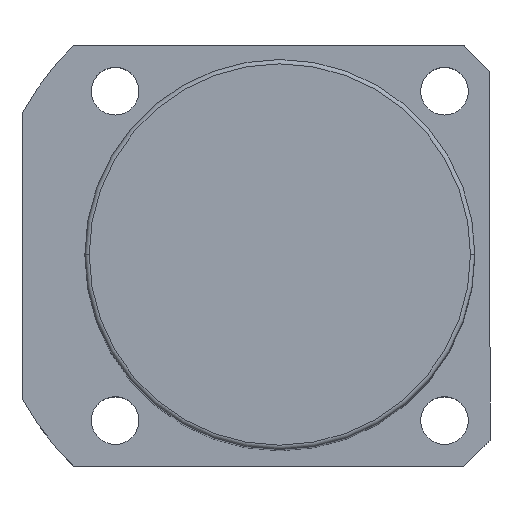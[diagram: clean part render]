
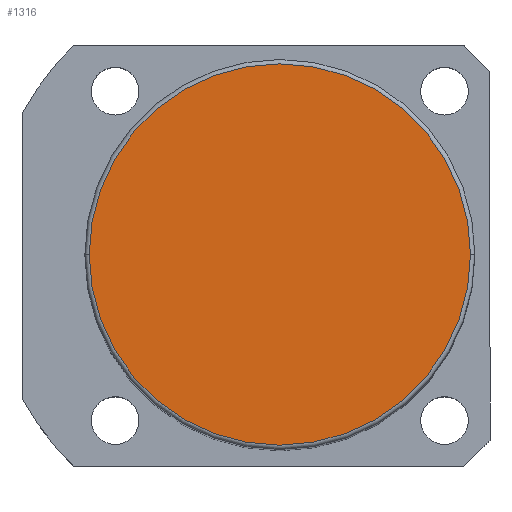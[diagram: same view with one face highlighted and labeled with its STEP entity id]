
A CAD part, top view. The second image highlights one B-rep face of the part: STEP entity #1316.
In plain terms, the highlighted planar face has unit normal (0, 0, 1).
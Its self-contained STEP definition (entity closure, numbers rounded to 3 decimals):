
#58 = EDGE_LOOP ( 'NONE', ( #635, #777 ) ) ;
#153 = VERTEX_POINT ( 'NONE', #1813 ) ;
#212 = CARTESIAN_POINT ( 'NONE',  ( 44., 0., 196.5 ) ) ;
#266 = DIRECTION ( 'NONE',  ( 0., 0., 1. ) ) ;
#441 = PLANE ( 'NONE',  #1385 ) ;
#621 = CARTESIAN_POINT ( 'NONE',  ( 0., 0., 196.5 ) ) ;
#635 = ORIENTED_EDGE ( 'NONE', *, *, #2095, .T. ) ;
#671 = AXIS2_PLACEMENT_3D ( 'NONE', #621, #968, #2160 ) ;
#777 = ORIENTED_EDGE ( 'NONE', *, *, #1943, .T. ) ;
#780 = DIRECTION ( 'NONE',  ( 1., 0., 0. ) ) ;
#900 = DIRECTION ( 'NONE',  ( 1., 0., 0. ) ) ;
#968 = DIRECTION ( 'NONE',  ( 0., 0., 1. ) ) ;
#994 = CARTESIAN_POINT ( 'NONE',  ( 0., 0., 196.5 ) ) ;
#1170 = CIRCLE ( 'NONE', #671, 44. ) ;
#1316 = ADVANCED_FACE ( 'NONE', ( #2222 ), #441, .T. ) ;
#1385 = AXIS2_PLACEMENT_3D ( 'NONE', #994, #266, #780 ) ;
#1585 = CARTESIAN_POINT ( 'NONE',  ( 0., 0., 196.5 ) ) ;
#1698 = VERTEX_POINT ( 'NONE', #212 ) ;
#1752 = DIRECTION ( 'NONE',  ( 0., 0., 1. ) ) ;
#1813 = CARTESIAN_POINT ( 'NONE',  ( -44., 0., 196.5 ) ) ;
#1896 = AXIS2_PLACEMENT_3D ( 'NONE', #1585, #1752, #900 ) ;
#1943 = EDGE_CURVE ( 'NONE', #153, #1698, #1170, .T. ) ;
#2064 = CIRCLE ( 'NONE', #1896, 44. ) ;
#2095 = EDGE_CURVE ( 'NONE', #1698, #153, #2064, .T. ) ;
#2160 = DIRECTION ( 'NONE',  ( 1., 0., 0. ) ) ;
#2222 = FACE_OUTER_BOUND ( 'NONE', #58, .T. ) ;
